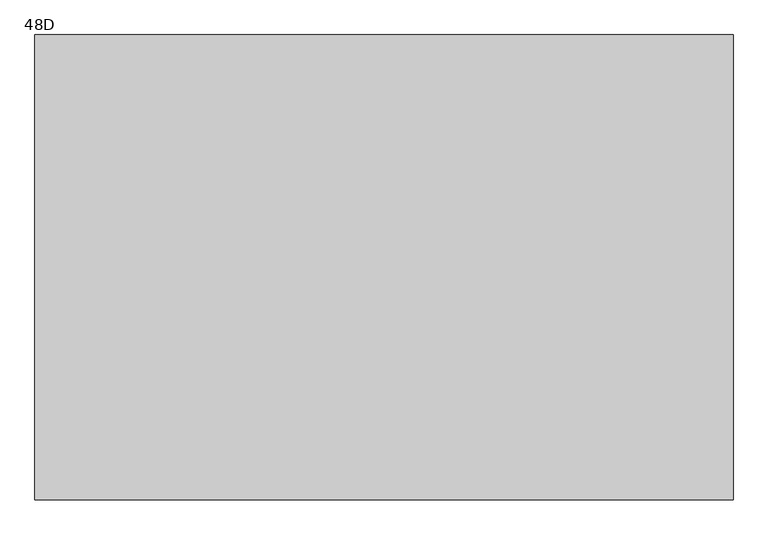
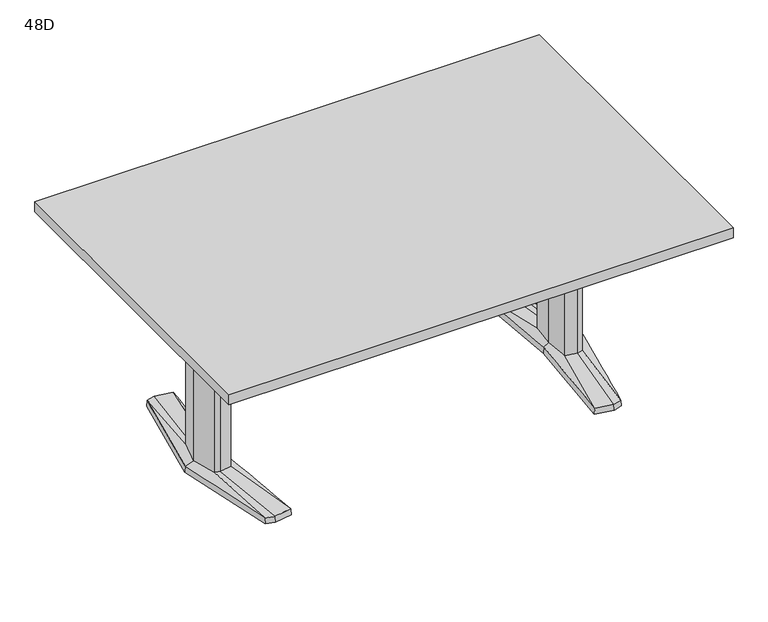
"""IFC4 building model written with IfcOpenShell, lengths in millimetres: furniture geometry, Coalesse_AM_Table_Conference_ETable2_Rectangular_72in_AluminiumBase : 48D."""

from ifc_helpers import new_model, si_unit, frame, origin, place, context, project, spatial, polyline, outline, extrude, source, transform, mapped, element, save
from ifc_brep_helpers import plane_surface, spline_surface, advanced_brep


def furniture_48d_a24e7c98(model_context):
    return source(origin(), model_context, "Body", "SolidModel", [
        advanced_brep(
        [(614.8503471, -379.3768856, 25.4), (644.5756636, -371.5332654, 25.4), (668.2327243, -89.293702, 36.5125), (648.9795254, -94.605478, 36.5125), (606.0521001, -87.0529327, 36.5125), (551.7612538, -368.5071562, 25.4), (597.9364207, 0.0, 36.5125), (579.8389754, 0.3970149, 25.4), (606.0521001, 87.0529327, 36.5125), (551.7615002, 368.5172593, 25.4), (648.9795254, 94.605478, 36.5125), (614.8502233, 379.3769183, 25.4), (668.2327243, 89.293702, 36.5125), (644.7535458, 371.4863276, 25.4), (692.1595251, 0.0, 36.5125), (721.4851663, 0.0003516, 25.4), (578.2468742, 0.3968871, 3.175), (550.06875, 369.8367279, 3.175), (614.9213004, 381.0, 3.175), (646.1093245, 372.7704151, 3.175), (723.10625, 0.0, 3.175), (645.9309817, -372.8174744, 3.175), (614.9213004, -381.0, 3.175), (550.06875, -369.8264415, 3.175), (649.5979264, 107.6121478, 3.175), (594.3065451, 97.8843184, 3.175), (585.1810887, 0.0, 3.175), (594.3065451, -97.8843184, 3.175), (649.5979264, -107.6121478, 3.175), (678.6183473, -99.6056872, 3.175), (705.3083085, 0.0, 3.175), (678.6183473, 99.6056872, 3.175), (613.4286812, 346.9152841, 3.175), (557.7811371, 337.3364985, 3.175), (560.1889918, 324.8641942, 3.175), (612.8600644, 333.9306305, 3.175), (648.6725609, 324.4807859, 3.175), (647.5544526, 337.9105158, 3.175), (613.4286812, -346.9152841, 3.175), (647.5544526, -337.9105158, 3.175), (648.6725609, -324.4807859, 3.175), (612.8600644, -333.9306305, 3.175), (560.1889918, -324.8641942, 3.175), (557.7811371, -337.3364985, 3.175), (649.5979264, 107.6121478, 0.0), (678.6183473, 99.6056872, 0.0), (705.3083085, 0.0, 0.0), (678.6183473, -99.6056872, 0.0), (649.5979264, -107.6121478, 0.0), (594.3065451, -97.8843184, 0.0), (585.1810887, 0.0, 0.0), (594.3065451, 97.8843184, 0.0), (613.4286812, 346.9152841, 0.0), (647.5544526, 337.9105158, 0.0), (648.6725609, 324.4807859, 0.0), (612.8600644, 333.9306305, 0.0), (560.1889918, 324.8641942, 0.0), (557.7811371, 337.3364985, 0.0), (613.4286812, -346.9152841, 0.0), (557.7811371, -337.3364985, 0.0), (560.1889918, -324.8641942, 0.0), (612.8600644, -333.9306305, 0.0), (648.6725609, -324.4807859, 0.0), (647.5544526, -337.9105158, 0.0), (668.2327243, 89.293702, 698.5), (648.9795254, 94.605478, 698.5), (606.0521001, 87.0529327, 698.5), (597.9364207, 0.0, 698.5), (606.0521001, -87.0529327, 698.5), (648.9795254, -94.605478, 698.5), (668.2327243, -89.293702, 698.5), (692.1595251, 0.0, 698.5)],
        [
            (0, 1),
            (1, 2),
            (2, 3),
            (3, 0),
            (3, 4),
            (4, 5),
            (5, 0),
            (4, 6),
            (6, 7),
            (7, 5),
            (6, 8),
            (8, 9),
            (9, 7),
            (8, 10),
            (10, 11),
            (11, 9),
            (10, 12),
            (12, 13),
            (13, 11),
            (12, 14),
            (14, 15),
            (15, 13),
            (1, 15),
            (14, 2),
            (16, 17),
            (17, 18),
            (18, 19),
            (19, 20),
            (20, 21),
            (21, 22),
            (22, 23),
            (23, 16),
            (24, 25),
            (25, 26),
            (26, 27),
            (27, 28),
            (28, 29),
            (29, 30),
            (30, 31),
            (31, 24),
            (32, 33),
            (33, 34),
            (34, 35),
            (35, 36),
            (36, 37),
            (37, 32),
            (38, 39),
            (39, 40),
            (40, 41),
            (41, 42),
            (42, 43),
            (43, 38),
            (16, 7),
            (9, 17),
            (11, 18),
            (13, 19),
            (15, 20),
            (1, 21),
            (0, 22),
            (5, 23),
            (44, 45),
            (45, 46),
            (46, 47),
            (47, 48),
            (48, 49),
            (49, 50),
            (50, 51),
            (51, 44),
            (52, 53),
            (53, 54),
            (54, 55),
            (55, 56),
            (56, 57),
            (57, 52),
            (58, 59),
            (59, 60),
            (60, 61),
            (61, 62),
            (62, 63),
            (63, 58),
            (44, 24),
            (31, 45),
            (30, 46),
            (29, 47),
            (28, 48),
            (27, 49),
            (26, 50),
            (25, 51),
            (52, 32),
            (37, 53),
            (36, 54),
            (35, 55),
            (34, 56),
            (33, 57),
            (58, 38),
            (43, 59),
            (42, 60),
            (41, 61),
            (40, 62),
            (39, 63),
            (64, 65),
            (65, 66),
            (66, 67),
            (67, 68),
            (68, 69),
            (69, 70),
            (70, 71),
            (71, 64),
            (71, 14),
            (12, 64),
            (70, 2),
            (69, 3),
            (68, 4),
            (67, 6),
            (66, 8),
            (65, 10),
        ],
        [
            spline_surface(1, 1, [[(644.5756636, -371.5332654, 25.4), (614.8503471, -379.3768856, 25.4)], [(668.2327243, -89.293702, 36.5125), (648.9795254, -94.605478, 36.5125)]], [2, 2], [2, 2], [0.0, 1.0], [0.0, 1.0]),
            spline_surface(1, 1, [[(614.8503471, -379.3768856, 25.4), (551.7612538, -368.5071562, 25.4)], [(648.9795254, -94.605478, 36.5125), (606.0521001, -87.0529327, 36.5125)]], [2, 2], [2, 2], [0.0, 1.0], [0.0, 1.0]),
            spline_surface(1, 1, [[(551.7612538, -368.5071562, 25.4), (579.8389754, 0.3970149, 25.4)], [(606.0521001, -87.0529327, 36.5125), (597.9364207, 0.0, 36.5125)]], [2, 2], [2, 2], [0.0, 1.0], [0.0, 1.0]),
            spline_surface(1, 1, [[(579.8389754, 0.3970149, 25.4), (551.7615002, 368.5172593, 25.4)], [(597.9364207, 0.0, 36.5125), (606.0521001, 87.0529327, 36.5125)]], [2, 2], [2, 2], [0.0, 1.0], [0.0, 1.0]),
            spline_surface(1, 1, [[(551.7615002, 368.5172593, 25.4), (614.8502233, 379.3769183, 25.4)], [(606.0521001, 87.0529327, 36.5125), (648.9795254, 94.605478, 36.5125)]], [2, 2], [2, 2], [0.0, 1.0], [0.0, 1.0]),
            spline_surface(1, 1, [[(614.8502233, 379.3769183, 25.4), (644.7535458, 371.4863276, 25.4)], [(648.9795254, 94.605478, 36.5125), (668.2327243, 89.293702, 36.5125)]], [2, 2], [2, 2], [0.0, 1.0], [0.0, 1.0]),
            spline_surface(1, 1, [[(644.7535458, 371.4863276, 25.4), (721.4851663, 0.0003516, 25.4)], [(668.2327243, 89.293702, 36.5125), (692.1595251, 0.0, 36.5125)]], [2, 2], [2, 2], [0.0, 1.0], [0.0, 1.0]),
            spline_surface(1, 1, [[(721.4851663, 0.0003516, 25.4), (644.5756636, -371.5332654, 25.4)], [(692.1595251, 0.0, 36.5125), (668.2327243, -89.293702, 36.5125)]], [2, 2], [2, 2], [0.0, 1.0], [0.0, 1.0]),
            plane_surface(frame((615.4216914, 0.0450143, 3.175), z_axis=(0.0, 0.0, -1.0), x_axis=(-0.9669048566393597, -0.2551372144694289, 0.0))),
            plane_surface(frame((564.1578121, 185.1168075, 3.175), z_axis=(-0.9945699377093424, -0.07585840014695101, 0.0712470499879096), x_axis=(-0.07605167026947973, 0.9971038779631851, 0.0))),
            plane_surface(frame((582.4950252, 375.418364, 3.175), z_axis=(-0.1692071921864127, 0.9830019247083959, 0.07124704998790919), x_axis=(0.985506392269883, 0.16963829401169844, 0.0))),
            plane_surface(frame((630.5153124, 376.8852076, 3.175), z_axis=(0.2544888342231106, 0.9644476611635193, 0.07124704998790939), x_axis=(0.9669048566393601, -0.25513721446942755, 0.0))),
            plane_surface(frame((684.6077872, 186.3852076, 3.175), z_axis=(0.9768383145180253, 0.2017690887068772, 0.07124704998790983), x_axis=(0.20228315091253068, -0.9793270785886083, 0.0))),
            plane_surface(frame((684.5186158, -186.4087372, 3.175), z_axis=(0.9767507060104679, -0.20219276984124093, 0.07124704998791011), x_axis=(-0.2027079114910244, -0.9792392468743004, 0.0))),
            plane_surface(frame((630.426141, -376.9087372, 3.175), z_axis=(0.2544888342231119, -0.9644476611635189, 0.0712470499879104), x_axis=(-0.9669048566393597, -0.2551372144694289, 0.0))),
            plane_surface(frame((582.4950252, -375.4132207, 3.175), z_axis=(-0.16935861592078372, -0.982975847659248, 0.07124704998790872), x_axis=(-0.9854802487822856, 0.16979010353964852, 0.0))),
            plane_surface(frame((564.1578121, -184.7147772, 3.175), z_axis=(-0.9945820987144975, 0.07569878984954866, 0.07124704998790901), x_axis=(0.07589165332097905, 0.9971160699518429, 0.0))),
            plane_surface(frame((652.3571479, 106.8509046, 0.0), z_axis=(0.0, 0.0, -1.0000000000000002), x_axis=(-0.9639855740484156, 0.26595453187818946, 0.0))),
            plane_surface(frame((649.5979264, 107.6121478, 3.175), z_axis=(0.26595453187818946, 0.9639855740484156, 0.0), x_axis=(0.0, 0.0, -1.0))),
            plane_surface(frame((678.6183473, 99.6056872, 3.175), z_axis=(0.9659241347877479, 0.2588253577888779, 0.0), x_axis=(0.0, 0.0, -1.0))),
            plane_surface(frame((705.3083085, 0.0, 3.175), z_axis=(0.9659241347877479, -0.2588253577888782, 0.0), x_axis=(0.0, 0.0, -1.0))),
            plane_surface(frame((678.6183473, -99.6056872, 3.175), z_axis=(0.26595453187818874, -0.9639855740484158, 0.0), x_axis=(0.0, 0.0, -1.0))),
            plane_surface(frame((649.5979264, -107.6121478, 3.175), z_axis=(-0.17327617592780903, -0.9848732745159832, 0.0), x_axis=(0.0, 0.0, -1.0))),
            plane_surface(frame((594.3065451, -97.8843184, 3.175), z_axis=(-0.9956824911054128, -0.0928244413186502, 0.0), x_axis=(0.0, 0.0, -1.0))),
            plane_surface(frame((585.1810887, 0.0, 3.175), z_axis=(-0.9956824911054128, 0.09282444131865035, 0.0), x_axis=(0.0, 0.0, -1.0))),
            plane_surface(frame((594.3065451, 97.8843184, 3.175), z_axis=(-0.17327617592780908, 0.984873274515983, 0.0), x_axis=(0.0, 0.0, -1.0))),
            plane_surface(frame((613.4286812, 346.9152841, 3.175), z_axis=(0.25513721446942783, 0.9669048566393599, 0.0), x_axis=(0.0, 0.0, -1.0))),
            plane_surface(frame((647.5544526, 337.9105158, 3.175), z_axis=(0.9965521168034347, 0.0829691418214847, 0.0), x_axis=(0.0, 0.0, -1.0))),
            plane_surface(frame((648.6725609, 324.4807859, 3.175), z_axis=(-0.25513721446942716, -0.9669048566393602, 0.0), x_axis=(0.0, 0.0, -1.0))),
            plane_surface(frame((612.8600644, 333.9306305, 3.175), z_axis=(0.16963829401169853, -0.985506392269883, 0.0), x_axis=(0.0, 0.0, -1.0))),
            plane_surface(frame((560.1889918, 324.8641942, 3.175), z_axis=(-0.9818699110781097, -0.18955600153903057, 0.0), x_axis=(0.0, 0.0, -1.0))),
            plane_surface(frame((557.7811371, 337.3364985, 3.175), z_axis=(-0.16963829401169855, 0.9855063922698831, 0.0), x_axis=(0.0, 0.0, -1.0))),
            plane_surface(frame((613.4286812, -346.9152841, 3.175), z_axis=(-0.1696382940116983, -0.9855063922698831, 0.0), x_axis=(0.0, 0.0, -1.0))),
            plane_surface(frame((557.7811371, -337.3364985, 3.175), z_axis=(-0.9818699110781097, 0.18955600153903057, 0.0), x_axis=(0.0, 0.0, -1.0))),
            plane_surface(frame((560.1889918, -324.8641942, 3.175), z_axis=(0.16963829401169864, 0.985506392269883, 0.0), x_axis=(0.0, 0.0, -1.0))),
            plane_surface(frame((612.8600644, -333.9306305, 3.175), z_axis=(-0.2551372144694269, 0.9669048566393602, 0.0), x_axis=(0.0, 0.0, -1.0))),
            plane_surface(frame((648.6725609, -324.4807859, 3.175), z_axis=(0.9965521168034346, -0.0829691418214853, 0.0), x_axis=(0.0, 0.0, -1.0))),
            plane_surface(frame((647.5544526, -337.9105158, 3.175), z_axis=(0.2551372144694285, -0.9669048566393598, 0.0), x_axis=(0.0, 0.0, -1.0))),
            plane_surface(frame((692.1595251, 0.0, 698.5), z_axis=(0.0, 0.0, 1.0), x_axis=(0.25882535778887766, -0.965924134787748, 0.0))),
            plane_surface(frame((668.2327243, 89.293702, 698.5), z_axis=(0.965924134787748, 0.25882535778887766, 0.0), x_axis=(0.0, 0.0, -1.0))),
            plane_surface(frame((692.1595251, 0.0, 698.5), z_axis=(0.965924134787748, -0.2588253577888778, 0.0), x_axis=(0.0, 0.0, -1.0))),
            plane_surface(frame((668.2327243, -89.293702, 698.5), z_axis=(0.2659545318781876, -0.963985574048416, 0.0), x_axis=(0.0, 0.0, -1.0))),
            plane_surface(frame((648.9795254, -94.605478, 698.5), z_axis=(-0.1732761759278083, -0.9848732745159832, 0.0), x_axis=(0.0, 0.0, -1.0))),
            plane_surface(frame((606.0521001, -87.0529327, 698.5), z_axis=(-0.9956824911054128, -0.0928244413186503, 0.0), x_axis=(0.0, 0.0, -1.0))),
            plane_surface(frame((597.9364207, 0.0, 698.5), z_axis=(-0.9956824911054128, 0.09282444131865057, 0.0), x_axis=(0.0, 0.0, -1.0))),
            plane_surface(frame((606.0521001, 87.0529327, 698.5), z_axis=(-0.17327617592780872, 0.9848732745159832, 0.0), x_axis=(0.0, 0.0, -1.0))),
            plane_surface(frame((648.9795254, 94.605478, 698.5), z_axis=(0.26595453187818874, 0.9639855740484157, 0.0), x_axis=(0.0, 0.0, -1.0))),
        ],
        [
            (0, [[1, 2, 3, 4]]),
            (1, [[5, 6, 7, -4]]),
            (2, [[8, 9, 10, -6]]),
            (3, [[11, 12, 13, -9]]),
            (4, [[14, 15, 16, -12]]),
            (5, [[17, 18, 19, -15]]),
            (6, [[20, 21, 22, -18]]),
            (7, [[23, -21, 24, -2]]),
            (8, [[25, 26, 27, 28, 29, 30, 31, 32], [33, 34, 35, 36, 37, 38, 39, 40], [41, 42, 43, 44, 45, 46], [47, 48, 49, 50, 51, 52]]),
            (9, [[53, -13, 54, -25]]),
            (10, [[-54, -16, 55, -26]]),
            (11, [[-55, -19, 56, -27]]),
            (12, [[-56, -22, 57, -28]]),
            (13, [[-57, -23, 58, -29]]),
            (14, [[-58, -1, 59, -30]]),
            (15, [[-59, -7, 60, -31]]),
            (16, [[-60, -10, -53, -32]]),
            (17, [[61, 62, 63, 64, 65, 66, 67, 68]]),
            (17, [[69, 70, 71, 72, 73, 74]]),
            (17, [[75, 76, 77, 78, 79, 80]]),
            (18, [[81, -40, 82, -61]]),
            (19, [[-82, -39, 83, -62]]),
            (20, [[-83, -38, 84, -63]]),
            (21, [[-84, -37, 85, -64]]),
            (22, [[-85, -36, 86, -65]]),
            (23, [[-86, -35, 87, -66]]),
            (24, [[-87, -34, 88, -67]]),
            (25, [[-88, -33, -81, -68]]),
            (26, [[89, -46, 90, -69]]),
            (27, [[-90, -45, 91, -70]]),
            (28, [[-91, -44, 92, -71]]),
            (29, [[-92, -43, 93, -72]]),
            (30, [[-93, -42, 94, -73]]),
            (31, [[-94, -41, -89, -74]]),
            (32, [[95, -52, 96, -75]]),
            (33, [[-96, -51, 97, -76]]),
            (34, [[-97, -50, 98, -77]]),
            (35, [[-98, -49, 99, -78]]),
            (36, [[-99, -48, 100, -79]]),
            (37, [[-100, -47, -95, -80]]),
            (38, [[101, 102, 103, 104, 105, 106, 107, 108]]),
            (39, [[109, -20, 110, -108]]),
            (40, [[111, -24, -109, -107]]),
            (41, [[112, -3, -111, -106]]),
            (42, [[113, -5, -112, -105]]),
            (43, [[114, -8, -113, -104]]),
            (44, [[115, -11, -114, -103]]),
            (45, [[116, -14, -115, -102]]),
            (46, [[-110, -17, -116, -101]]),
        ],
    ),
        advanced_brep(
        [(-614.8503471, -379.3768856, 25.4), (-648.9795254, -94.605478, 36.5125), (-668.2327243, -89.293702, 36.5125), (-644.5756636, -371.5332654, 25.4), (-551.7612538, -368.5071562, 25.4), (-606.0521001, -87.0529327, 36.5125), (-579.8389754, 0.3970149, 25.4), (-597.9364207, 0.0, 36.5125), (-551.7615002, 368.5172593, 25.4), (-606.0521001, 87.0529327, 36.5125), (-614.8502233, 379.3769183, 25.4), (-648.9795254, 94.605478, 36.5125), (-644.7535458, 371.4863276, 25.4), (-668.2327243, 89.293702, 36.5125), (-721.4851663, 0.0003516, 25.4), (-692.1595251, 0.0, 36.5125), (-578.2468742, 0.3968871, 3.175), (-550.06875, -369.8264415, 3.175), (-614.9213004, -381.0, 3.175), (-645.9309817, -372.8174744, 3.175), (-723.10625, 0.0, 3.175), (-646.1093245, 372.7704151, 3.175), (-614.9213004, 381.0, 3.175), (-550.06875, 369.8367279, 3.175), (-649.5979264, 107.6121478, 3.175), (-678.6183473, 99.6056872, 3.175), (-705.3083085, 0.0, 3.175), (-678.6183473, -99.6056872, 3.175), (-649.5979264, -107.6121478, 3.175), (-594.3065451, -97.8843184, 3.175), (-585.1810887, 0.0, 3.175), (-594.3065451, 97.8843184, 3.175), (-613.4286812, 346.9152841, 3.175), (-647.5544526, 337.9105158, 3.175), (-648.6725609, 324.4807859, 3.175), (-612.8600644, 333.9306305, 3.175), (-560.1889918, 324.8641942, 3.175), (-557.7811371, 337.3364985, 3.175), (-613.4286812, -346.9152841, 3.175), (-557.7811371, -337.3364985, 3.175), (-560.1889918, -324.8641942, 3.175), (-612.8600644, -333.9306305, 3.175), (-648.6725609, -324.4807859, 3.175), (-647.5544526, -337.9105158, 3.175), (-649.5979264, 107.6121478, 0.0), (-594.3065451, 97.8843184, 0.0), (-585.1810887, 0.0, 0.0), (-594.3065451, -97.8843184, 0.0), (-649.5979264, -107.6121478, 0.0), (-678.6183473, -99.6056872, 0.0), (-705.3083085, 0.0, 0.0), (-678.6183473, 99.6056872, 0.0), (-613.4286812, 346.9152841, 0.0), (-557.7811371, 337.3364985, 0.0), (-560.1889918, 324.8641942, 0.0), (-612.8600644, 333.9306305, 0.0), (-648.6725609, 324.4807859, 0.0), (-647.5544526, 337.9105158, 0.0), (-613.4286812, -346.9152841, 0.0), (-647.5544526, -337.9105158, 0.0), (-648.6725609, -324.4807859, 0.0), (-612.8600644, -333.9306305, 0.0), (-560.1889918, -324.8641942, 0.0), (-557.7811371, -337.3364985, 0.0), (-668.2327243, 89.293702, 698.5), (-692.1595251, 0.0, 698.5), (-668.2327243, -89.293702, 698.5), (-648.9795254, -94.605478, 698.5), (-606.0521001, -87.0529327, 698.5), (-597.9364207, 0.0, 698.5), (-606.0521001, 87.0529327, 698.5), (-648.9795254, 94.605478, 698.5)],
        [
            (0, 1),
            (1, 2),
            (2, 3),
            (3, 0),
            (0, 4),
            (4, 5),
            (5, 1),
            (4, 6),
            (6, 7),
            (7, 5),
            (6, 8),
            (8, 9),
            (9, 7),
            (8, 10),
            (10, 11),
            (11, 9),
            (10, 12),
            (12, 13),
            (13, 11),
            (12, 14),
            (14, 15),
            (15, 13),
            (2, 15),
            (14, 3),
            (16, 17),
            (17, 18),
            (18, 19),
            (19, 20),
            (20, 21),
            (21, 22),
            (22, 23),
            (23, 16),
            (24, 25),
            (25, 26),
            (26, 27),
            (27, 28),
            (28, 29),
            (29, 30),
            (30, 31),
            (31, 24),
            (32, 33),
            (33, 34),
            (34, 35),
            (35, 36),
            (36, 37),
            (37, 32),
            (38, 39),
            (39, 40),
            (40, 41),
            (41, 42),
            (42, 43),
            (43, 38),
            (23, 8),
            (6, 16),
            (22, 10),
            (21, 12),
            (20, 14),
            (19, 3),
            (18, 0),
            (17, 4),
            (44, 45),
            (45, 46),
            (46, 47),
            (47, 48),
            (48, 49),
            (49, 50),
            (50, 51),
            (51, 44),
            (52, 53),
            (53, 54),
            (54, 55),
            (55, 56),
            (56, 57),
            (57, 52),
            (58, 59),
            (59, 60),
            (60, 61),
            (61, 62),
            (62, 63),
            (63, 58),
            (51, 25),
            (24, 44),
            (50, 26),
            (49, 27),
            (48, 28),
            (47, 29),
            (46, 30),
            (45, 31),
            (57, 33),
            (32, 52),
            (56, 34),
            (55, 35),
            (54, 36),
            (53, 37),
            (63, 39),
            (38, 58),
            (62, 40),
            (61, 41),
            (60, 42),
            (59, 43),
            (64, 65),
            (65, 66),
            (66, 67),
            (67, 68),
            (68, 69),
            (69, 70),
            (70, 71),
            (71, 64),
            (64, 13),
            (15, 65),
            (2, 66),
            (1, 67),
            (5, 68),
            (7, 69),
            (9, 70),
            (11, 71),
        ],
        [
            spline_surface(1, 1, [[(-644.5756636, -371.5332654, 25.4), (-668.2327243, -89.293702, 36.5125)], [(-614.8503471, -379.3768856, 25.4), (-648.9795254, -94.605478, 36.5125)]], [2, 2], [2, 2], [0.0, 1.0], [0.0, 1.0]),
            spline_surface(1, 1, [[(-614.8503471, -379.3768856, 25.4), (-648.9795254, -94.605478, 36.5125)], [(-551.7612538, -368.5071562, 25.4), (-606.0521001, -87.0529327, 36.5125)]], [2, 2], [2, 2], [0.0, 1.0], [0.0, 1.0]),
            spline_surface(1, 1, [[(-551.7612538, -368.5071562, 25.4), (-606.0521001, -87.0529327, 36.5125)], [(-579.8389754, 0.3970149, 25.4), (-597.9364207, 0.0, 36.5125)]], [2, 2], [2, 2], [0.0, 1.0], [0.0, 1.0]),
            spline_surface(1, 1, [[(-579.8389754, 0.3970149, 25.4), (-597.9364207, 0.0, 36.5125)], [(-551.7615002, 368.5172593, 25.4), (-606.0521001, 87.0529327, 36.5125)]], [2, 2], [2, 2], [0.0, 1.0], [0.0, 1.0]),
            spline_surface(1, 1, [[(-551.7615002, 368.5172593, 25.4), (-606.0521001, 87.0529327, 36.5125)], [(-614.8502233, 379.3769183, 25.4), (-648.9795254, 94.605478, 36.5125)]], [2, 2], [2, 2], [0.0, 1.0], [0.0, 1.0]),
            spline_surface(1, 1, [[(-614.8502233, 379.3769183, 25.4), (-648.9795254, 94.605478, 36.5125)], [(-644.7535458, 371.4863276, 25.4), (-668.2327243, 89.293702, 36.5125)]], [2, 2], [2, 2], [0.0, 1.0], [0.0, 1.0]),
            spline_surface(1, 1, [[(-644.7535458, 371.4863276, 25.4), (-668.2327243, 89.293702, 36.5125)], [(-721.4851663, 0.0003516, 25.4), (-692.1595251, 0.0, 36.5125)]], [2, 2], [2, 2], [0.0, 1.0], [0.0, 1.0]),
            spline_surface(1, 1, [[(-721.4851663, 0.0003516, 25.4), (-692.1595251, 0.0, 36.5125)], [(-644.5756636, -371.5332654, 25.4), (-668.2327243, -89.293702, 36.5125)]], [2, 2], [2, 2], [0.0, 1.0], [0.0, 1.0]),
            plane_surface(frame((-615.4216914, 0.0450143, 3.175), z_axis=(0.0, 0.0, -1.0), x_axis=(0.9669048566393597, -0.2551372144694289, 0.0))),
            plane_surface(frame((-564.1578121, 185.1168075, 3.175), z_axis=(0.9945699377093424, -0.07585840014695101, 0.0712470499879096), x_axis=(0.07605167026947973, 0.9971038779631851, 0.0))),
            plane_surface(frame((-582.4950252, 375.418364, 3.175), z_axis=(0.1692071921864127, 0.9830019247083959, 0.07124704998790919), x_axis=(-0.985506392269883, 0.16963829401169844, 0.0))),
            plane_surface(frame((-630.5153124, 376.8852076, 3.175), z_axis=(-0.2544888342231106, 0.9644476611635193, 0.07124704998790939), x_axis=(-0.9669048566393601, -0.25513721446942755, 0.0))),
            plane_surface(frame((-684.6077872, 186.3852076, 3.175), z_axis=(-0.9768383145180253, 0.2017690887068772, 0.07124704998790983), x_axis=(-0.20228315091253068, -0.9793270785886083, 0.0))),
            plane_surface(frame((-684.5186158, -186.4087372, 3.175), z_axis=(-0.9767507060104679, -0.20219276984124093, 0.07124704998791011), x_axis=(0.2027079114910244, -0.9792392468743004, 0.0))),
            plane_surface(frame((-630.426141, -376.9087372, 3.175), z_axis=(-0.2544888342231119, -0.9644476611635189, 0.0712470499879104), x_axis=(0.9669048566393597, -0.2551372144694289, 0.0))),
            plane_surface(frame((-582.4950252, -375.4132207, 3.175), z_axis=(0.16935861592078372, -0.982975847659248, 0.07124704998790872), x_axis=(0.9854802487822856, 0.16979010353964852, 0.0))),
            plane_surface(frame((-564.1578121, -184.7147772, 3.175), z_axis=(0.9945820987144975, 0.07569878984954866, 0.07124704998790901), x_axis=(-0.07589165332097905, 0.9971160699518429, 0.0))),
            plane_surface(frame((-652.3571479, 106.8509046, 0.0), z_axis=(0.0, 0.0, -1.0000000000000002), x_axis=(0.9639855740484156, 0.26595453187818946, 0.0))),
            plane_surface(frame((-649.5979264, 107.6121478, 3.175), z_axis=(-0.26595453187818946, 0.9639855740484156, 0.0), x_axis=(0.0, 0.0, -1.0))),
            plane_surface(frame((-678.6183473, 99.6056872, 3.175), z_axis=(-0.9659241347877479, 0.2588253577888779, 0.0), x_axis=(0.0, 0.0, -1.0))),
            plane_surface(frame((-705.3083085, 0.0, 3.175), z_axis=(-0.9659241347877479, -0.2588253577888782, 0.0), x_axis=(0.0, 0.0, -1.0))),
            plane_surface(frame((-678.6183473, -99.6056872, 3.175), z_axis=(-0.26595453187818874, -0.9639855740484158, 0.0), x_axis=(0.0, 0.0, -1.0))),
            plane_surface(frame((-649.5979264, -107.6121478, 3.175), z_axis=(0.17327617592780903, -0.9848732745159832, 0.0), x_axis=(0.0, 0.0, -1.0))),
            plane_surface(frame((-594.3065451, -97.8843184, 3.175), z_axis=(0.9956824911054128, -0.0928244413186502, 0.0), x_axis=(0.0, 0.0, -1.0))),
            plane_surface(frame((-585.1810887, 0.0, 3.175), z_axis=(0.9956824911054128, 0.09282444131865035, 0.0), x_axis=(0.0, 0.0, -1.0))),
            plane_surface(frame((-594.3065451, 97.8843184, 3.175), z_axis=(0.17327617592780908, 0.984873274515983, 0.0), x_axis=(0.0, 0.0, -1.0))),
            plane_surface(frame((-613.4286812, 346.9152841, 3.175), z_axis=(-0.25513721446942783, 0.9669048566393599, 0.0), x_axis=(0.0, 0.0, -1.0))),
            plane_surface(frame((-647.5544526, 337.9105158, 3.175), z_axis=(-0.9965521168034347, 0.0829691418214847, 0.0), x_axis=(0.0, 0.0, -1.0))),
            plane_surface(frame((-648.6725609, 324.4807859, 3.175), z_axis=(0.25513721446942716, -0.9669048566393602, 0.0), x_axis=(0.0, 0.0, -1.0))),
            plane_surface(frame((-612.8600644, 333.9306305, 3.175), z_axis=(-0.16963829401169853, -0.985506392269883, 0.0), x_axis=(0.0, 0.0, -1.0))),
            plane_surface(frame((-560.1889918, 324.8641942, 3.175), z_axis=(0.9818699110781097, -0.18955600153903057, 0.0), x_axis=(0.0, 0.0, -1.0))),
            plane_surface(frame((-557.7811371, 337.3364985, 3.175), z_axis=(0.16963829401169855, 0.9855063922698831, 0.0), x_axis=(0.0, 0.0, -1.0))),
            plane_surface(frame((-613.4286812, -346.9152841, 3.175), z_axis=(0.1696382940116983, -0.9855063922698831, 0.0), x_axis=(0.0, 0.0, -1.0))),
            plane_surface(frame((-557.7811371, -337.3364985, 3.175), z_axis=(0.9818699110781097, 0.18955600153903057, 0.0), x_axis=(0.0, 0.0, -1.0))),
            plane_surface(frame((-560.1889918, -324.8641942, 3.175), z_axis=(-0.16963829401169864, 0.985506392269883, 0.0), x_axis=(0.0, 0.0, -1.0))),
            plane_surface(frame((-612.8600644, -333.9306305, 3.175), z_axis=(0.2551372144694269, 0.9669048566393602, 0.0), x_axis=(0.0, 0.0, -1.0))),
            plane_surface(frame((-648.6725609, -324.4807859, 3.175), z_axis=(-0.9965521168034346, -0.0829691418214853, 0.0), x_axis=(0.0, 0.0, -1.0))),
            plane_surface(frame((-647.5544526, -337.9105158, 3.175), z_axis=(-0.2551372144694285, -0.9669048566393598, 0.0), x_axis=(0.0, 0.0, -1.0))),
            plane_surface(frame((-692.1595251, 0.0, 698.5), z_axis=(0.0, 0.0, 1.0), x_axis=(-0.25882535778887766, -0.965924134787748, 0.0))),
            plane_surface(frame((-668.2327243, 89.293702, 698.5), z_axis=(-0.965924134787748, 0.25882535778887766, 0.0), x_axis=(0.0, 0.0, -1.0))),
            plane_surface(frame((-692.1595251, 0.0, 698.5), z_axis=(-0.965924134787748, -0.2588253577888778, 0.0), x_axis=(0.0, 0.0, -1.0))),
            plane_surface(frame((-668.2327243, -89.293702, 698.5), z_axis=(-0.2659545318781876, -0.963985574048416, 0.0), x_axis=(0.0, 0.0, -1.0))),
            plane_surface(frame((-648.9795254, -94.605478, 698.5), z_axis=(0.1732761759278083, -0.9848732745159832, 0.0), x_axis=(0.0, 0.0, -1.0))),
            plane_surface(frame((-606.0521001, -87.0529327, 698.5), z_axis=(0.9956824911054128, -0.0928244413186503, 0.0), x_axis=(0.0, 0.0, -1.0))),
            plane_surface(frame((-597.9364207, 0.0, 698.5), z_axis=(0.9956824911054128, 0.09282444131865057, 0.0), x_axis=(0.0, 0.0, -1.0))),
            plane_surface(frame((-606.0521001, 87.0529327, 698.5), z_axis=(0.17327617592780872, 0.9848732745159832, 0.0), x_axis=(0.0, 0.0, -1.0))),
            plane_surface(frame((-648.9795254, 94.605478, 698.5), z_axis=(-0.26595453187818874, 0.9639855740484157, 0.0), x_axis=(0.0, 0.0, -1.0))),
        ],
        [
            (0, [[1, 2, 3, 4]]),
            (1, [[-1, 5, 6, 7]]),
            (2, [[-6, 8, 9, 10]]),
            (3, [[-9, 11, 12, 13]]),
            (4, [[-12, 14, 15, 16]]),
            (5, [[-15, 17, 18, 19]]),
            (6, [[-18, 20, 21, 22]]),
            (7, [[-3, 23, -21, 24]]),
            (8, [[25, 26, 27, 28, 29, 30, 31, 32], [33, 34, 35, 36, 37, 38, 39, 40], [41, 42, 43, 44, 45, 46], [47, 48, 49, 50, 51, 52]]),
            (9, [[-32, 53, -11, 54]]),
            (10, [[-31, 55, -14, -53]]),
            (11, [[-30, 56, -17, -55]]),
            (12, [[-29, 57, -20, -56]]),
            (13, [[-28, 58, -24, -57]]),
            (14, [[-27, 59, -4, -58]]),
            (15, [[-26, 60, -5, -59]]),
            (16, [[-25, -54, -8, -60]]),
            (17, [[61, 62, 63, 64, 65, 66, 67, 68]]),
            (17, [[69, 70, 71, 72, 73, 74]]),
            (17, [[75, 76, 77, 78, 79, 80]]),
            (18, [[-68, 81, -33, 82]]),
            (19, [[-67, 83, -34, -81]]),
            (20, [[-66, 84, -35, -83]]),
            (21, [[-65, 85, -36, -84]]),
            (22, [[-64, 86, -37, -85]]),
            (23, [[-63, 87, -38, -86]]),
            (24, [[-62, 88, -39, -87]]),
            (25, [[-61, -82, -40, -88]]),
            (26, [[-74, 89, -41, 90]]),
            (27, [[-73, 91, -42, -89]]),
            (28, [[-72, 92, -43, -91]]),
            (29, [[-71, 93, -44, -92]]),
            (30, [[-70, 94, -45, -93]]),
            (31, [[-69, -90, -46, -94]]),
            (32, [[-80, 95, -47, 96]]),
            (33, [[-79, 97, -48, -95]]),
            (34, [[-78, 98, -49, -97]]),
            (35, [[-77, 99, -50, -98]]),
            (36, [[-76, 100, -51, -99]]),
            (37, [[-75, -96, -52, -100]]),
            (38, [[101, 102, 103, 104, 105, 106, 107, 108]]),
            (39, [[-101, 109, -22, 110]]),
            (40, [[-102, -110, -23, 111]]),
            (41, [[-103, -111, -2, 112]]),
            (42, [[-104, -112, -7, 113]]),
            (43, [[-105, -113, -10, 114]]),
            (44, [[-106, -114, -13, 115]]),
            (45, [[-107, -115, -16, 116]]),
            (46, [[-108, -116, -19, -109]]),
        ],
    ),
        extrude(outline(polyline([(-914.4, -609.6), (-914.4, 609.6), (914.4, 609.6), (914.4, -609.6), (-914.4, -609.6)])), frame((0.0, 0.0, 698.5), z_axis=(0.0, 0.0, 1.0), x_axis=(1.0, 0.0, 0.0)), (0.0, 0.0, 1.0), 38.1),
        extrude(outline(polyline([(96.8375, 698.5), (103.1875, 698.5), (103.1875, 476.25), (-103.1875, 476.25), (-103.1875, 698.5), (-96.8375, 698.5), (-96.8375, 482.6), (96.8375, 482.6), (96.8375, 698.5)])), frame((-597.9364207, 0.0, 0.0), z_axis=(1.0, 0.0, 0.0), x_axis=(0.0, 1.0, 0.0)), (0.0, 0.0, 1.0), 1195.8728415),
    ])


if __name__ == "__main__":
    model = new_model("IFC4")
    model_context = context("Model", 3, world=origin())
    ifc_project = project(units=[si_unit("LENGTHUNIT", "METRE", prefix="MILLI")], contexts=[model_context])
    site = spatial("IfcSite", under=ifc_project)
    building = spatial("IfcBuilding", under=site)
    placement = place(None, origin())
    furniture_48d_shape = furniture_48d_a24e7c98(model_context)
    element("IfcFurniture", 1, ObjectType="Coalesse_AM_Table_Conference_ETable2_Rectangular_72in_AluminiumBase : 48D", at=placement, inside=building, context=model_context, shape_type="MappedRepresentation", body=[
        mapped(furniture_48d_shape, transform((0.0, 0.0, 0.0), x_axis=(1.0, 0.0, 0.0), y_axis=(0.0, 1.0, 0.0), z_axis=(0.0, 0.0, 1.0))),
    ])
    save(model, "model.ifc")
